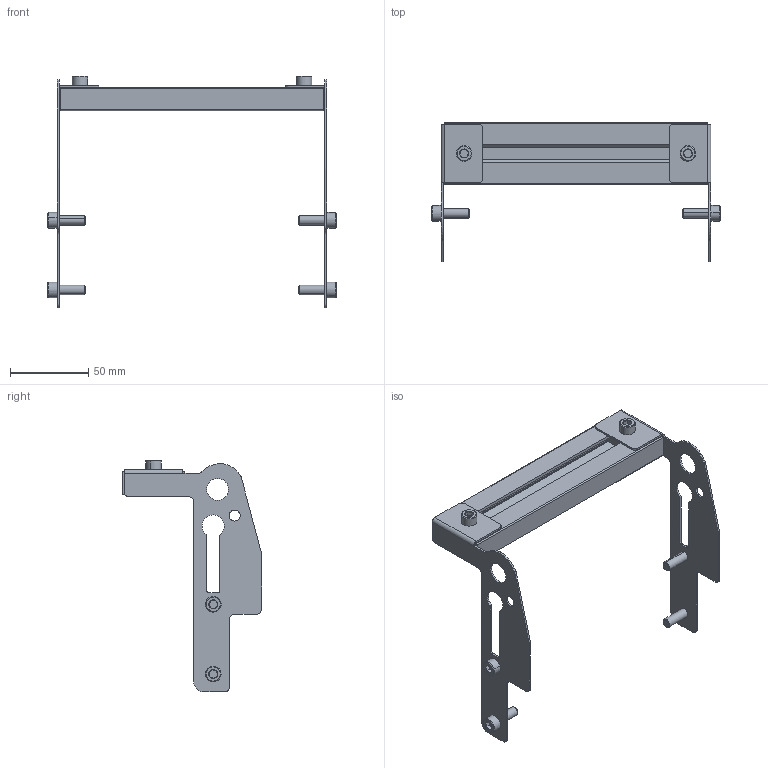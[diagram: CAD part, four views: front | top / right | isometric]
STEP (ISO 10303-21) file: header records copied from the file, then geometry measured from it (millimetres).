
FILE_DESCRIPTION((''),'2;1');
FILE_NAME('207213-06_ASM','2016-06-23T',('adam.dellomodarme'),(''),'PRO/ENGINEER BY PARAMETRIC TECHNOLOGY CORPORATION, 2012420','PRO/ENGINEER BY PARAMETRIC TECHNOLOGY CORPORATION, 2012420','');
FILE_SCHEMA(('CONFIG_CONTROL_DESIGN'));
Length unit declared in the file: inch
Products named in the file (8): 207216-WW_207216-06; 9206XXM_920618M; 207130-LH; 207130-RH; 9206XXM_920612M; 834-019; ASM0001_ASM; 207213-06_ASM
Assembly tree (12 placements, depth 3):
  207213-06_ASM
    ASM0001_ASM
      207216-WW_207216-06
      9206XXM_920618M  x4
      207130-LH
      207130-RH
      9206XXM_920612M  x2
      834-019  x2
Bounding box: 184.01 x 88.64 x 147.81 mm (x, y, z)
Volume: 68671 mm3; surface area: 70886.1 mm2
Topology: 11 solids, 11 shells, 344 faces, 843 edges, 533 vertices
Faces by surface type: plane 146, cylinder 132, cone 66
Entity records: 7898 total; most frequent: CARTESIAN_POINT 1578, DIRECTION 1342, ORIENTED_EDGE 1258, EDGE_CURVE 629, AXIS2_PLACEMENT_3D 497, VERTEX_POINT 409, VECTOR 348, LINE 348
